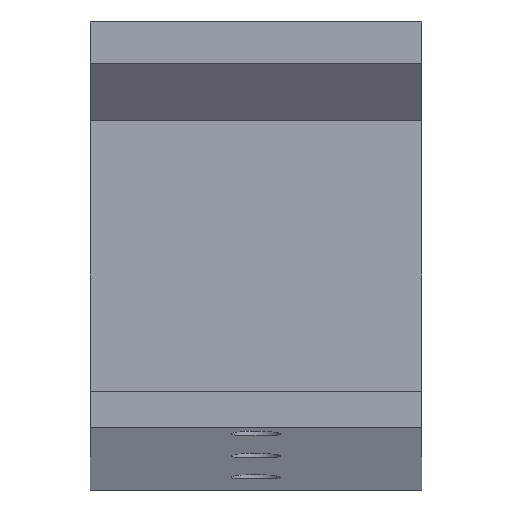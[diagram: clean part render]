
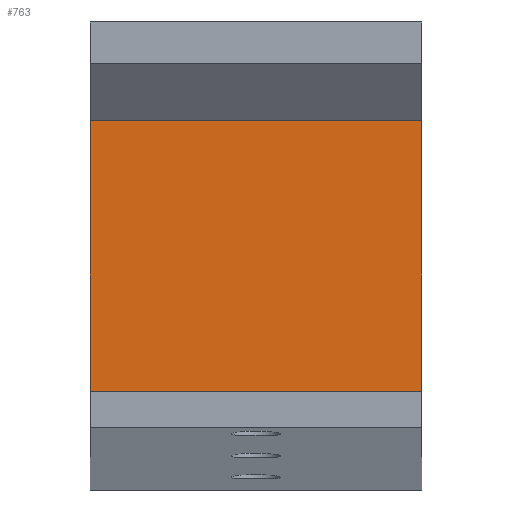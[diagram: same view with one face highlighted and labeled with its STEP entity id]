
A CAD part, top view. The second image highlights one B-rep face of the part: STEP entity #763.
In plain terms, the highlighted planar face has unit normal (0, 0, 1).
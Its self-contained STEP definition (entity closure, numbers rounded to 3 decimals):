
#32 = PLANE('',#33);
#33 = AXIS2_PLACEMENT_3D('',#34,#35,#36);
#34 = CARTESIAN_POINT('',(1.,-1.855,-22.));
#35 = DIRECTION('',(1.,-0.,-0.));
#36 = DIRECTION('',(0.,0.,-1.));
#253 = VERTEX_POINT('',#254);
#254 = CARTESIAN_POINT('',(1.,0.59,-9.2));
#268 = PLANE('',#269);
#269 = AXIS2_PLACEMENT_3D('',#270,#271,#272);
#270 = CARTESIAN_POINT('',(1.,3.87,22.));
#271 = DIRECTION('',(-0.,-0.995,0.105));
#272 = DIRECTION('',(0.,0.105,0.995));
#280 = EDGE_CURVE('',#253,#281,#283,.T.);
#281 = VERTEX_POINT('',#282);
#282 = CARTESIAN_POINT('',(1.,17.873,-9.2));
#283 = SURFACE_CURVE('',#284,(#288,#295),.PCURVE_S1.);
#284 = LINE('',#285,#286);
#285 = CARTESIAN_POINT('',(1.,0.006,-9.2));
#286 = VECTOR('',#287,1.);
#287 = DIRECTION('',(-0.,1.,-0.));
#288 = PCURVE('',#32,#289);
#289 = DEFINITIONAL_REPRESENTATION('',(#290),#294);
#290 = LINE('',#291,#292);
#291 = CARTESIAN_POINT('',(-12.8,1.861));
#292 = VECTOR('',#293,1.);
#293 = DIRECTION('',(-0.,1.));
#294 = ( GEOMETRIC_REPRESENTATION_CONTEXT(2) 
PARAMETRIC_REPRESENTATION_CONTEXT() REPRESENTATION_CONTEXT('2D SPACE',''
  ) );
#295 = PCURVE('',#296,#301);
#296 = PLANE('',#297);
#297 = AXIS2_PLACEMENT_3D('',#298,#299,#300);
#298 = CARTESIAN_POINT('',(1.,0.006,-9.2));
#299 = DIRECTION('',(-0.,-0.,-1.));
#300 = DIRECTION('',(0.,-1.,0.));
#301 = DEFINITIONAL_REPRESENTATION('',(#302),#306);
#302 = LINE('',#303,#304);
#303 = CARTESIAN_POINT('',(-0.,0.));
#304 = VECTOR('',#305,1.);
#305 = DIRECTION('',(-1.,0.));
#306 = ( GEOMETRIC_REPRESENTATION_CONTEXT(2) 
PARAMETRIC_REPRESENTATION_CONTEXT() REPRESENTATION_CONTEXT('2D SPACE',''
  ) );
#324 = PLANE('',#325);
#325 = AXIS2_PLACEMENT_3D('',#326,#327,#328);
#326 = CARTESIAN_POINT('',(1.,29.5,22.));
#327 = DIRECTION('',(-0.,-0.937,0.349));
#328 = DIRECTION('',(0.,0.349,0.937));
#633 = PLANE('',#634);
#634 = AXIS2_PLACEMENT_3D('',#635,#636,#637);
#635 = CARTESIAN_POINT('',(21.,-1.855,-22.));
#636 = DIRECTION('',(1.,-0.,-0.));
#637 = DIRECTION('',(0.,0.,-1.));
#721 = VERTEX_POINT('',#722);
#722 = CARTESIAN_POINT('',(21.,17.873,-9.2));
#743 = EDGE_CURVE('',#721,#281,#744,.T.);
#744 = SURFACE_CURVE('',#745,(#749,#756),.PCURVE_S1.);
#745 = LINE('',#746,#747);
#746 = CARTESIAN_POINT('',(1.,17.873,-9.2));
#747 = VECTOR('',#748,1.);
#748 = DIRECTION('',(-1.,-0.,-0.));
#749 = PCURVE('',#324,#750);
#750 = DEFINITIONAL_REPRESENTATION('',(#751),#755);
#751 = LINE('',#752,#753);
#752 = CARTESIAN_POINT('',(-33.296,0.));
#753 = VECTOR('',#754,1.);
#754 = DIRECTION('',(-0.,1.));
#755 = ( GEOMETRIC_REPRESENTATION_CONTEXT(2) 
PARAMETRIC_REPRESENTATION_CONTEXT() REPRESENTATION_CONTEXT('2D SPACE',''
  ) );
#756 = PCURVE('',#296,#757);
#757 = DEFINITIONAL_REPRESENTATION('',(#758),#762);
#758 = LINE('',#759,#760);
#759 = CARTESIAN_POINT('',(-17.866,0.));
#760 = VECTOR('',#761,1.);
#761 = DIRECTION('',(-0.,1.));
#762 = ( GEOMETRIC_REPRESENTATION_CONTEXT(2) 
PARAMETRIC_REPRESENTATION_CONTEXT() REPRESENTATION_CONTEXT('2D SPACE',''
  ) );
#763 = ADVANCED_FACE('',(#764),#296,.F.);
#764 = FACE_BOUND('',#765,.T.);
#765 = EDGE_LOOP('',(#766,#767,#790,#811));
#766 = ORIENTED_EDGE('',*,*,#280,.F.);
#767 = ORIENTED_EDGE('',*,*,#768,.F.);
#768 = EDGE_CURVE('',#769,#253,#771,.T.);
#769 = VERTEX_POINT('',#770);
#770 = CARTESIAN_POINT('',(21.,0.59,-9.2));
#771 = SURFACE_CURVE('',#772,(#776,#783),.PCURVE_S1.);
#772 = LINE('',#773,#774);
#773 = CARTESIAN_POINT('',(1.,0.59,-9.2));
#774 = VECTOR('',#775,1.);
#775 = DIRECTION('',(-1.,-0.,-0.));
#776 = PCURVE('',#296,#777);
#777 = DEFINITIONAL_REPRESENTATION('',(#778),#782);
#778 = LINE('',#779,#780);
#779 = CARTESIAN_POINT('',(-0.584,0.));
#780 = VECTOR('',#781,1.);
#781 = DIRECTION('',(-0.,1.));
#782 = ( GEOMETRIC_REPRESENTATION_CONTEXT(2) 
PARAMETRIC_REPRESENTATION_CONTEXT() REPRESENTATION_CONTEXT('2D SPACE',''
  ) );
#783 = PCURVE('',#268,#784);
#784 = DEFINITIONAL_REPRESENTATION('',(#785),#789);
#785 = LINE('',#786,#787);
#786 = CARTESIAN_POINT('',(-31.372,0.));
#787 = VECTOR('',#788,1.);
#788 = DIRECTION('',(-0.,1.));
#789 = ( GEOMETRIC_REPRESENTATION_CONTEXT(2) 
PARAMETRIC_REPRESENTATION_CONTEXT() REPRESENTATION_CONTEXT('2D SPACE',''
  ) );
#790 = ORIENTED_EDGE('',*,*,#791,.T.);
#791 = EDGE_CURVE('',#769,#721,#792,.T.);
#792 = SURFACE_CURVE('',#793,(#797,#804),.PCURVE_S1.);
#793 = LINE('',#794,#795);
#794 = CARTESIAN_POINT('',(21.,0.006,-9.2));
#795 = VECTOR('',#796,1.);
#796 = DIRECTION('',(-0.,1.,-0.));
#797 = PCURVE('',#296,#798);
#798 = DEFINITIONAL_REPRESENTATION('',(#799),#803);
#799 = LINE('',#800,#801);
#800 = CARTESIAN_POINT('',(-0.,-20.));
#801 = VECTOR('',#802,1.);
#802 = DIRECTION('',(-1.,0.));
#803 = ( GEOMETRIC_REPRESENTATION_CONTEXT(2) 
PARAMETRIC_REPRESENTATION_CONTEXT() REPRESENTATION_CONTEXT('2D SPACE',''
  ) );
#804 = PCURVE('',#633,#805);
#805 = DEFINITIONAL_REPRESENTATION('',(#806),#810);
#806 = LINE('',#807,#808);
#807 = CARTESIAN_POINT('',(-12.8,1.861));
#808 = VECTOR('',#809,1.);
#809 = DIRECTION('',(-0.,1.));
#810 = ( GEOMETRIC_REPRESENTATION_CONTEXT(2) 
PARAMETRIC_REPRESENTATION_CONTEXT() REPRESENTATION_CONTEXT('2D SPACE',''
  ) );
#811 = ORIENTED_EDGE('',*,*,#743,.T.);
